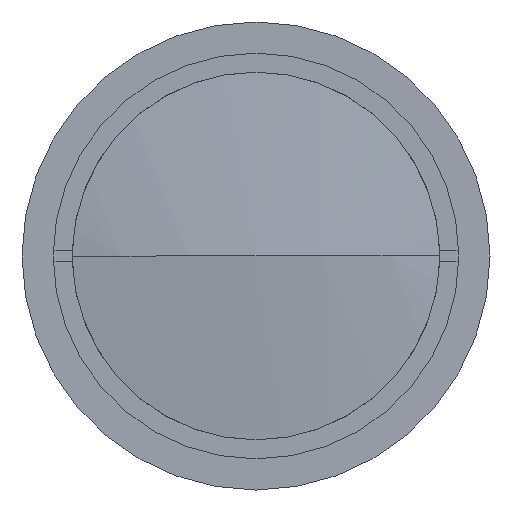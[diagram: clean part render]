
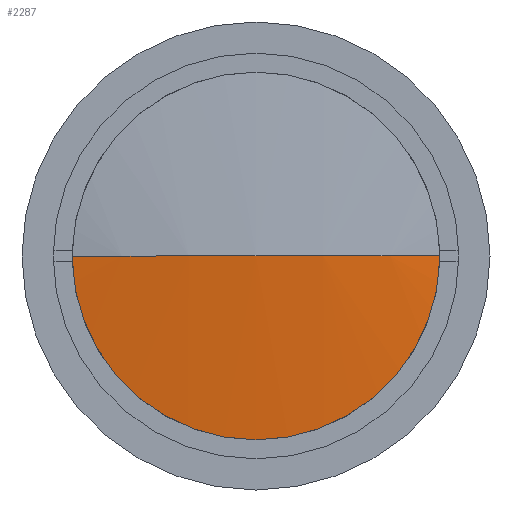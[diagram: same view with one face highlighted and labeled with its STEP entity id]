
A CAD part, left-side view. The second image highlights one B-rep face of the part: STEP entity #2287.
In plain terms, the highlighted spherical face has radius 100.18 mm.
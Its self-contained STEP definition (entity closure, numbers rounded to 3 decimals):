
#256 = CARTESIAN_POINT ( 'NONE',  ( 103.461, 0., 0. ) ) ;
#539 = DIRECTION ( 'NONE',  ( 0., -1., 0. ) ) ;
#852 = VERTEX_POINT ( 'NONE', #2116 ) ;
#1055 = CARTESIAN_POINT ( 'NONE',  ( 103.461, 0., 0. ) ) ;
#1267 = EDGE_LOOP ( 'NONE', ( #1563, #3113, #3298 ) ) ;
#1309 = DIRECTION ( 'NONE',  ( -1., 0., 0. ) ) ;
#1338 = DIRECTION ( 'NONE',  ( 0., 1., 0. ) ) ;
#1375 = VERTEX_POINT ( 'NONE', #1589 ) ;
#1563 = ORIENTED_EDGE ( 'NONE', *, *, #2956, .T. ) ;
#1589 = CARTESIAN_POINT ( 'NONE',  ( 4.912, 18., 0. ) ) ;
#1798 = CARTESIAN_POINT ( 'NONE',  ( 4.912, -18., 0. ) ) ;
#2116 = CARTESIAN_POINT ( 'NONE',  ( 3.281, 0., 0. ) ) ;
#2148 = VERTEX_POINT ( 'NONE', #1798 ) ;
#2212 = DIRECTION ( 'NONE',  ( 0., 0., 1. ) ) ;
#2287 = ADVANCED_FACE ( 'NONE', ( #3648 ), #3597, .T. ) ;
#2408 = AXIS2_PLACEMENT_3D ( 'NONE', #256, #2212, #539 ) ;
#2472 = AXIS2_PLACEMENT_3D ( 'NONE', #1055, #3180, #1338 ) ;
#2485 = AXIS2_PLACEMENT_3D ( 'NONE', #3138, #1309, #3468 ) ;
#2688 = AXIS2_PLACEMENT_3D ( 'NONE', #3773, #3148, #3786 ) ;
#2732 = CIRCLE ( 'NONE', #2408, 100.18 ) ;
#2818 = CIRCLE ( 'NONE', #2472, 100.18 ) ;
#2871 = CIRCLE ( 'NONE', #2485, 18. ) ;
#2956 = EDGE_CURVE ( 'NONE', #1375, #2148, #2871, .T. ) ;
#2995 = EDGE_CURVE ( 'NONE', #2148, #852, #2818, .T. ) ;
#3110 = EDGE_CURVE ( 'NONE', #1375, #852, #2732, .T. ) ;
#3113 = ORIENTED_EDGE ( 'NONE', *, *, #2995, .T. ) ;
#3138 = CARTESIAN_POINT ( 'NONE',  ( 4.912, 0., 0. ) ) ;
#3148 = DIRECTION ( 'NONE',  ( 0., 0., -1. ) ) ;
#3180 = DIRECTION ( 'NONE',  ( 0., 0., -1. ) ) ;
#3298 = ORIENTED_EDGE ( 'NONE', *, *, #3110, .F. ) ;
#3468 = DIRECTION ( 'NONE',  ( 0., 0., 1. ) ) ;
#3597 = SPHERICAL_SURFACE ( 'NONE', #2688, 100.18 ) ;
#3648 = FACE_OUTER_BOUND ( 'NONE', #1267, .T. ) ;
#3773 = CARTESIAN_POINT ( 'NONE',  ( 103.461, 0., 0. ) ) ;
#3786 = DIRECTION ( 'NONE',  ( 0., 1., 0. ) ) ;
